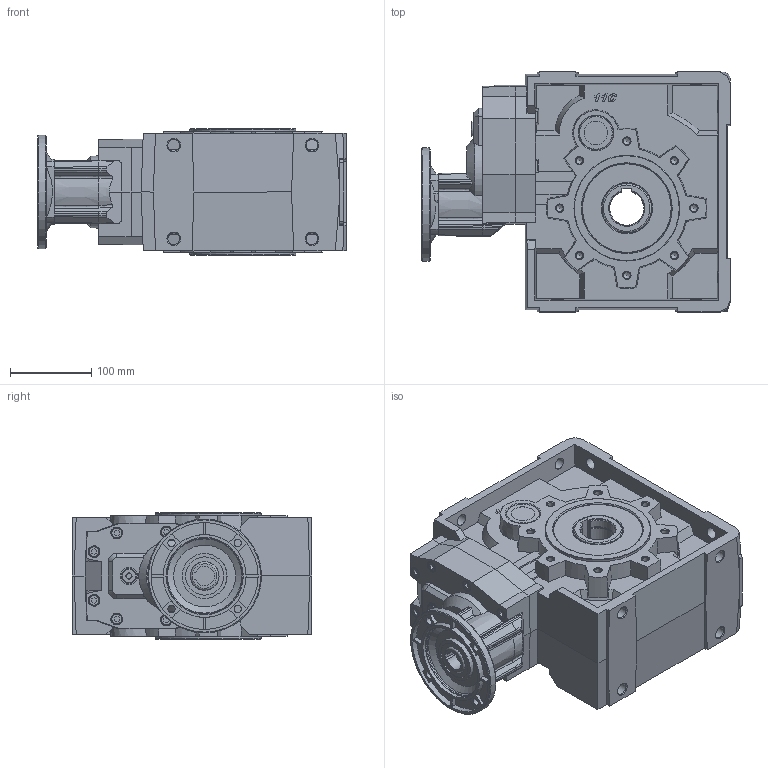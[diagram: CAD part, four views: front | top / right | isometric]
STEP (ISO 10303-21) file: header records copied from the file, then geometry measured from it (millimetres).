
FILE_DESCRIPTION( ( 'Unknown' ), '1' );
FILE_NAME( 'E:/services/configuratordownloads/customers/HYDROMEC/X/download/AE92CF63827AFDE6F1B788A31749F4E/STEP/AE92CF63827AFDE6F1B788A31749F4E.3d.stp', 'Unknown', ( 'Unknown' ), ( 'Unknown' ), 'PSStep 10.1', 'Unknown', ' ' );
FILE_SCHEMA( ( 'AUTOMOTIVE_DESIGN { 1 0 10303 214 1 1 1 1 }' ) );
Length unit declared in the file: millimetre
Products named in the file (1): 11C8800_NEW
Bounding box: 380 x 295 x 155 mm (x, y, z)
Volume: 10200494.8 mm3; surface area: 566597.7 mm2
Topology: 1 solids, 25 shells, 1032 faces, 2607 edges, 1685 vertices
Faces by surface type: plane 586, cylinder 206, cone 189, torus 30, bspline 21
Full cylindrical faces by diameter (mm): 4.917 x16, 5.6 x8, 6 x10, 6.647 x16, 7 x8, 8.376 x32, 9 x4, 12 x8, 13 x8, 13.5 x1, 14.5 x12, 18 x1, 19 x1, 21 x1, 29 x2, 35 x1, 35.5 x1, 47 x2, 95 x1, 110 x2, 130 x2
Entity records: 39414 total; most frequent: CARTESIAN_POINT 8166, DIRECTION 4678, ORIENTED_EDGE 4366, EDGE_CURVE 2183, AXIS2_PLACEMENT_3D 1709, VERTEX_POINT 1585, EDGE_LOOP 1418, LINE 1260
